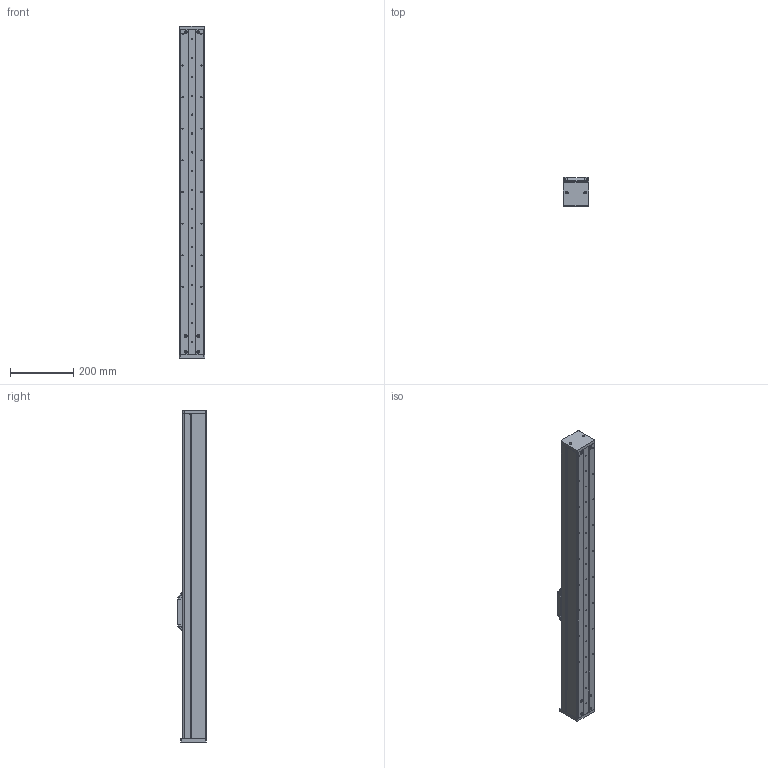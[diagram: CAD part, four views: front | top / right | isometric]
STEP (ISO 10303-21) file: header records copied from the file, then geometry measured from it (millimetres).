
FILE_DESCRIPTION (( 'STEP AP214' ), '1' );
FILE_NAME ('CF80-16-C-800-FW60.STEP', '2016-02-19T02:41:01', ( '' ), ( '' ), 'SwSTEP 2.0', 'SolidWorks 2015', '' );
FILE_SCHEMA (( 'AUTOMOTIVE_DESIGN' ));
Length unit declared in the file: millimetre
Products named in the file (13): CFN80墙板; EGW15CA賑輸; 賑雄輸裔啣; CF80詩湍; CF80-60萇儂假蚾啣; CF80耜啣; CF80盓傅釱; EGR15絳寢; 賑雄輸; CFN80嘐隅釱; CFN80菁釱; CF80-16-C-800-FW60; 詩湍揤啣
Assembly tree (14 placements, depth 2):
  CF80-16-C-800-FW60
    CFN80菁釱
    CFN80墙板  x2
    EGW15CA賑輸
    EGR15絳寢
    CF80盓傅釱
    賑雄輸
    CFN80嘐隅釱
    賑雄輸裔啣
    CF80-60萇儂假蚾啣
    CF80耜啣
    CF80詩湍
    詩湍揤啣  x2
Bounding box: 80.02 x 91 x 1050 mm (x, y, z)
Volume: 1896053.7 mm3; surface area: 934141.3 mm2
Topology: 14 solids, 14 shells, 751 faces, 2084 edges, 1380 vertices
Faces by surface type: cylinder 387, plane 356, cone 8
Entity records: 24989 total; most frequent: CARTESIAN_POINT 5771, DIRECTION 3875, ORIENTED_EDGE 3818, EDGE_CURVE 1909, AXIS2_PLACEMENT_3D 1384, VERTEX_POINT 1266, LINE 1107, VECTOR 1107
